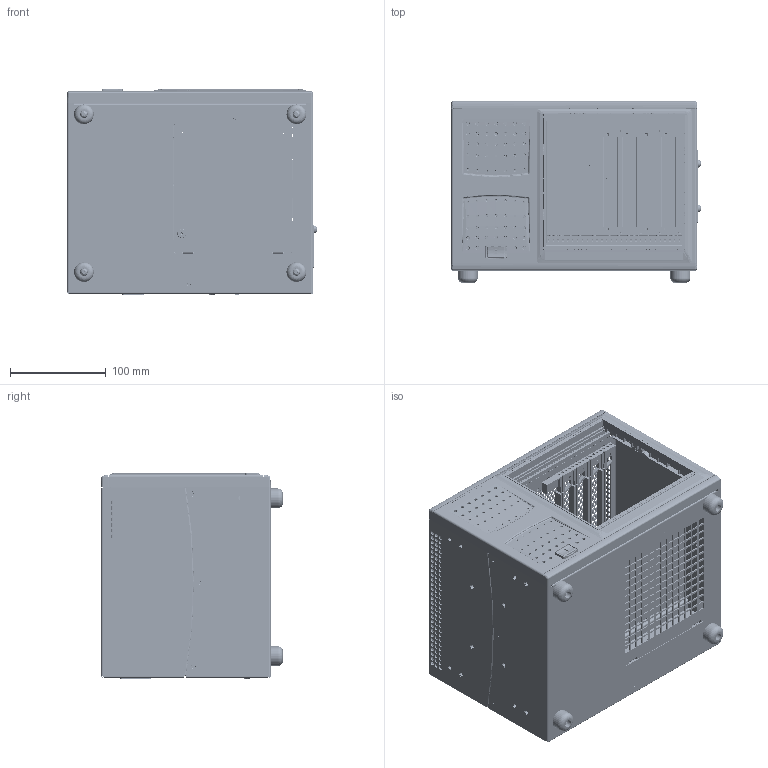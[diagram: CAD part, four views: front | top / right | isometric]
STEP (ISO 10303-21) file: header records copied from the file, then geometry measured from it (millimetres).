
FILE_DESCRIPTION((''),'2;1');
FILE_NAME('SW_CU_PXI_4-SLOT_CHASSIS','2012-08-21T',('stgill'),(''),'PRO/ENGINEER BY PARAMETRIC TECHNOLOGY CORPORATION, 2010230','PRO/ENGINEER BY PARAMETRIC TECHNOLOGY CORPORATION, 2010230','');
FILE_SCHEMA(('CONFIG_CONTROL_DESIGN'));
Products named in the file (1): SW_CU_PXI_4-SLOT_CHASSIS
Bounding box: 261.07 x 189.71 x 215.88 mm (x, y, z)
Surface area: 1127686.5 mm2 (no closed solid volume)
Topology: 0 solids, 491 shells, 12424 faces, 40252 edges, 27538 vertices
Faces by surface type: plane 6337, cylinder 5313, bspline 470, cone 211, torus 50, sphere 28, revolution 10, extrusion 5
Full cylindrical faces by diameter (mm): 11.684 x3
Entity records: 474412 total; most frequent: CARTESIAN_POINT 110390, DIRECTION 75823, ORIENTED_EDGE 70767, EDGE_CURVE 40077, VERTEX_POINT 27534, AXIS2_PLACEMENT_3D 25563, VECTOR 24687, LINE 24682
